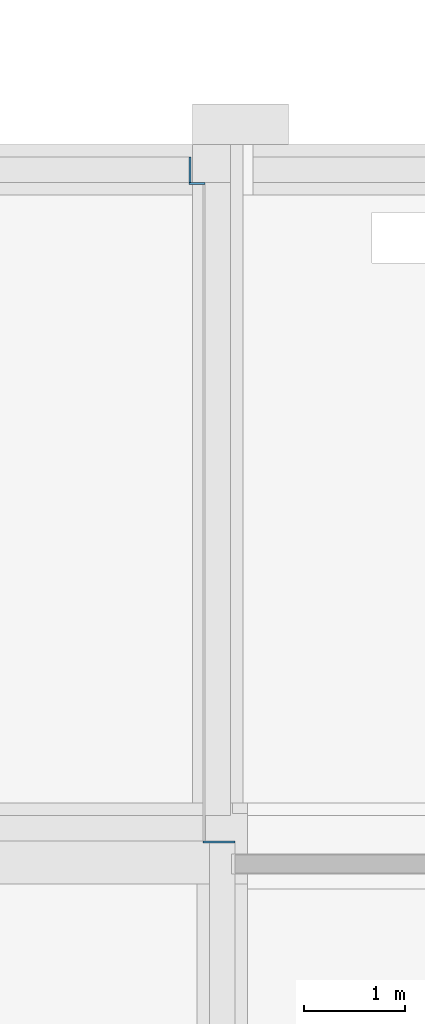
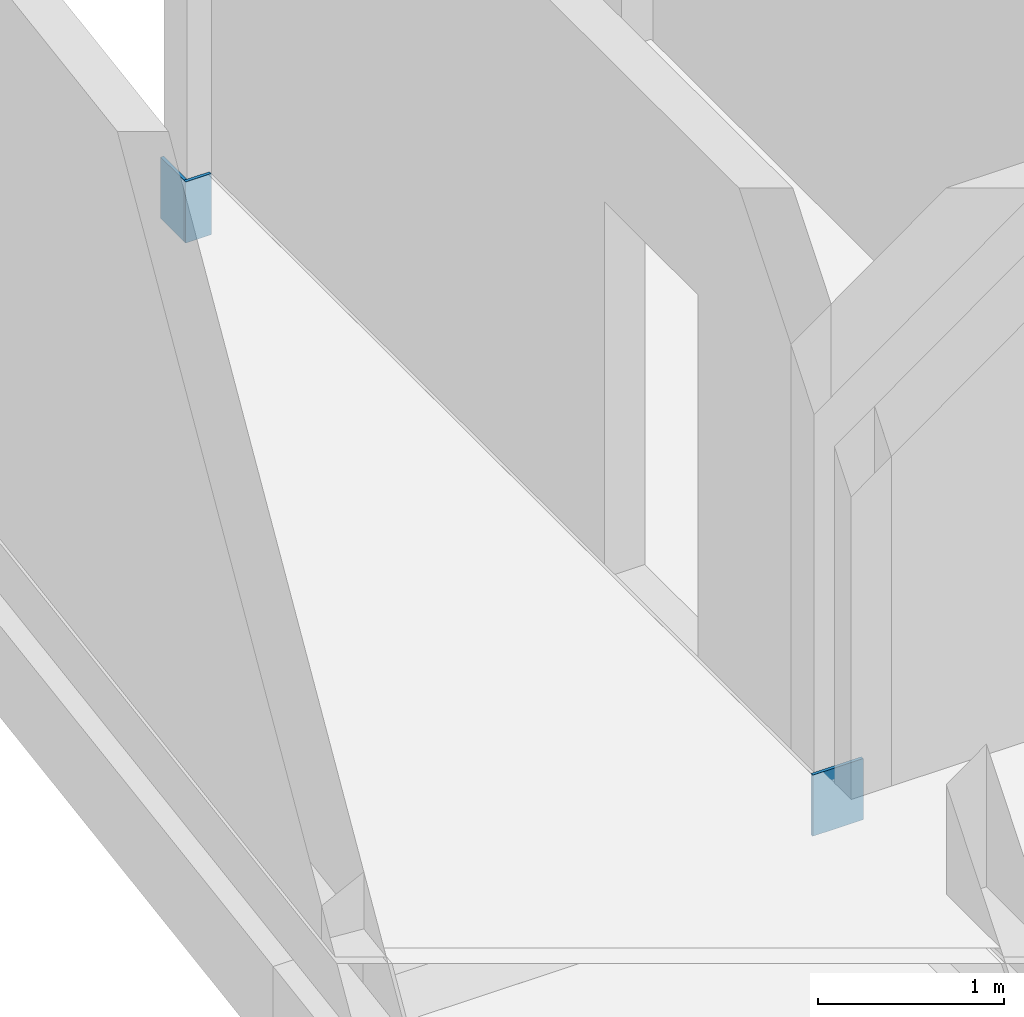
# One storey, part 51 of 60: 3 walls.
"""IFC2X3 building model written with IfcOpenShell, lengths in millimetres."""

from ifc_helpers import new_model, entity, si_unit, converted_unit, derived_unit, direction, frame, frame_2d, origin, place, context, subcontext, project, spatial, rectangle, extrude, material, layer, layer_set, layer_usage, type_object, element, save


model = new_model("IFC2X3")

# Units and contexts
model_context = context("Model", 3, precision=0.01, world=origin(), true_north=direction((6.12303176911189e-17, 1.0)))
body_context = subcontext(model_context, "Body", "Model", "MODEL_VIEW")
ifc_project = project(units=[si_unit("LENGTHUNIT", "METRE", prefix="MILLI"), si_unit("AREAUNIT", "SQUARE_METRE"), si_unit("VOLUMEUNIT", "CUBIC_METRE"), converted_unit("PLANEANGLEUNIT", "DEGREE", entity("IfcRatioMeasure", 0.0174532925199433), si_unit("PLANEANGLEUNIT", "RADIAN"), dimensions=[0, 0, 0, 0, 0, 0, 0]), si_unit("MASSUNIT", "GRAM", prefix="KILO"), derived_unit("MASSDENSITYUNIT", [(si_unit("MASSUNIT", "GRAM", prefix="KILO"), 1), (si_unit("LENGTHUNIT", "METRE"), -3)]), si_unit("TIMEUNIT", "SECOND"), si_unit("FREQUENCYUNIT", "HERTZ"), si_unit("THERMODYNAMICTEMPERATUREUNIT", "DEGREE_CELSIUS"), derived_unit("THERMALTRANSMITTANCEUNIT", [(si_unit("MASSUNIT", "GRAM", prefix="KILO"), 1), (si_unit("THERMODYNAMICTEMPERATUREUNIT", "KELVIN"), -1), (si_unit("TIMEUNIT", "SECOND"), -3)]), derived_unit("VOLUMETRICFLOWRATEUNIT", [(si_unit("LENGTHUNIT", "METRE"), 3), (si_unit("TIMEUNIT", "SECOND"), -1)]), si_unit("ELECTRICCURRENTUNIT", "AMPERE"), si_unit("ELECTRICVOLTAGEUNIT", "VOLT"), si_unit("POWERUNIT", "WATT"), si_unit("FORCEUNIT", "NEWTON", prefix="KILO"), si_unit("ILLUMINANCEUNIT", "LUX"), si_unit("LUMINOUSFLUXUNIT", "LUMEN"), si_unit("LUMINOUSINTENSITYUNIT", "CANDELA"), derived_unit("USERDEFINED", [(si_unit("MASSUNIT", "GRAM", prefix="KILO"), -1), (si_unit("LENGTHUNIT", "METRE"), -2), (si_unit("TIMEUNIT", "SECOND"), 3), (si_unit("LUMINOUSFLUXUNIT", "LUMEN"), 1)]), derived_unit("LINEARVELOCITYUNIT", [(si_unit("LENGTHUNIT", "METRE"), 1), (si_unit("TIMEUNIT", "SECOND"), -1)]), si_unit("PRESSUREUNIT", "PASCAL"), derived_unit("USERDEFINED", [(si_unit("LENGTHUNIT", "METRE"), -2), (si_unit("MASSUNIT", "GRAM", prefix="KILO"), 1), (si_unit("TIMEUNIT", "SECOND"), -2)])], contexts=[model_context])

# Site, building, storey
site_placement = place(None, origin())
site = spatial("IfcSite", under=ifc_project, at=site_placement, Name="Default", CompositionType="ELEMENT")
building_placement = place(site_placement, origin())
building = spatial("IfcBuilding", under=site, at=building_placement, Name="niet gebruiken", CompositionType="ELEMENT")
storey_placement = place(building_placement, origin())
storey = spatial("IfcBuildingStorey", under=building, at=storey_placement, Name="00 begane grond", CompositionType="ELEMENT", Elevation=0.0)

# Walls
ifc_material = material(Name="NLRS_n7_isolatie EPS")
ifc_layer = layer(ifc_material, 20.0)
ifc_layer_set = layer_set([ifc_layer], Name="Basic Wall:NLRS_21.12_WA_isolatie EPS platen d=20_gen")
ifc_layer_usage_1 = layer_usage(ifc_layer_set, "AXIS2", "NEGATIVE", 10.0)
wall_type = type_object("IfcWallType", Name="Basic Wall:NLRS_21.12_WA_isolatie EPS platen d=20_gen", PredefinedType="STANDARD", material=ifc_layer_set)
wall_1_placement = place(storey_placement, frame((7770.0, 52996.0, -402.0)))
element("IfcWallStandardCase", 1, at=wall_1_placement, inside=storey, type_object=wall_type, material=ifc_layer_usage_1, Name="Basic Wall:NLRS_21.12_WA_isolatie EPS platen d=20_gen", ObjectType="Basic Wall:NLRS_21.12_WA_isolatie EPS platen d=20_gen", context=body_context, shape_type="SweptSolid", body=[
    extrude(rectangle(XDim=160.000000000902, YDim=19.9999999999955, at=frame_2d((80.0000000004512, 2.55795384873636e-13), x_axis=(-1.0, 0.0))), origin(), (0.0, 0.0, 1.0), 402.0),
])
ifc_layer_usage_2 = layer_usage(ifc_layer_set, "AXIS2", "NEGATIVE", 10.0)
wall_2_placement = place(storey_placement, frame((7780.0, 53256.0, -402.0), z_axis=(0.0, 0.0, 1.0), x_axis=(0.0, -1.0, 0.0)))
element("IfcWallStandardCase", 2, at=wall_2_placement, inside=storey, type_object=wall_type, material=ifc_layer_usage_2, Name="Basic Wall:NLRS_21.12_WA_isolatie EPS platen d=20_gen", ObjectType="Basic Wall:NLRS_21.12_WA_isolatie EPS platen d=20_gen", context=body_context, shape_type="SweptSolid", body=[
    extrude(rectangle(XDim=249.999999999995, YDim=19.9999999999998, at=frame_2d((124.999999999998, -3.62376795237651e-13), x_axis=(-1.0, 0.0))), origin(), (0.0, 0.0, 1.0), 402.0),
])
ifc_layer_usage_3 = layer_usage(ifc_layer_set, "AXIS2", "NEGATIVE", 10.0)
wall_3_placement = place(storey_placement, frame((7910.0, 46486.0, -402.0)))
element("IfcWallStandardCase", 3, at=wall_3_placement, inside=storey, type_object=wall_type, material=ifc_layer_usage_3, Name="Basic Wall:NLRS_21.12_WA_isolatie EPS platen d=20_gen", ObjectType="Basic Wall:NLRS_21.12_WA_isolatie EPS platen d=20_gen", context=body_context, shape_type="SweptSolid", body=[
    extrude(rectangle(XDim=315.000000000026, YDim=19.9999999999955, at=frame_2d((157.500000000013, 7.01660951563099e-13), x_axis=(-1.0, 0.0))), origin(), (0.0, 0.0, 1.0), 402.0),
])

save(model, "model.ifc")
